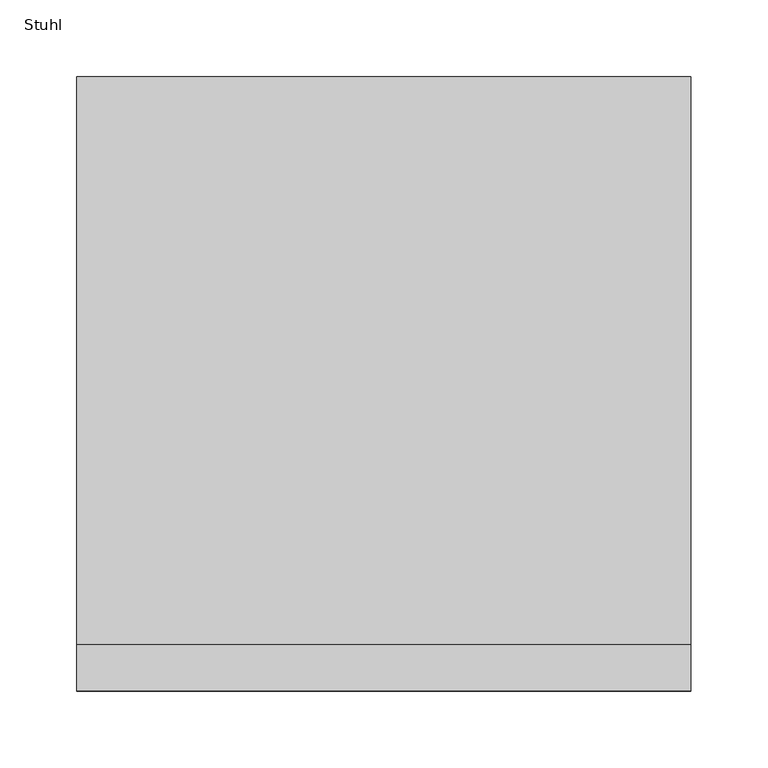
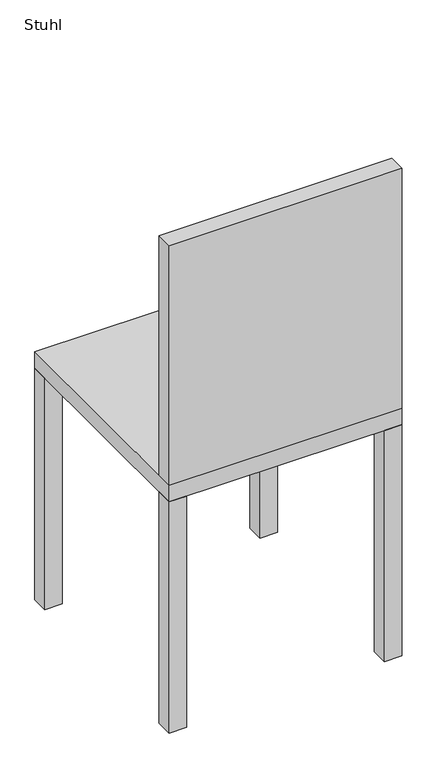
"""IFC4 building model written with IfcOpenShell, lengths in millimetres: furniture geometry, Mobile Ausstattung Stuhl : Stuhl."""

import ifcopenshell
import ifcopenshell.guid

model = None  # the IFC model being written
_history = None  # IfcOwnerHistory: only IFC2X3 demands one
_inside = {}  # id of a spatial element -> (the spatial element, [elements in it])
_under = {}  # id of a project, library or spatial element -> (it, [spatial elements below it])
_declared = {}  # id of a project -> (the project, [libraries it declares])
_typed = {}  # id of a type object -> (the type object, [elements of that type])
_made_of = {}  # id of a material, layer set ... -> (it, [elements and type objects made of it])


def new_model(schema):
    """Start an empty IFC model of exactly this schema.

    Asked for "IFC4X3", IfcOpenShell would pick the latest addendum, in which some entities
    have other attributes; the version numbers below select the first issue.
    IFC2X3 requires an IfcOwnerHistory on every rooted entity: one is made here for all.
    """
    global model, _history
    if schema == "IFC4X3":
        model = ifcopenshell.file(schema_version=(4, 3, 0, 0))
    else:
        model = ifcopenshell.file(schema=schema)
    _inside.clear()
    _under.clear()
    _declared.clear()
    _typed.clear()
    _made_of.clear()
    _history = None
    if model.schema == "IFC2X3":
        org = make("IfcOrganization", Name="unknown")
        user = make(
            "IfcPersonAndOrganization",
            ThePerson=make("IfcPerson", FamilyName="unknown"),
            TheOrganization=org,
        )
        app = make(
            "IfcApplication",
            ApplicationDeveloper=org,
            Version="unknown",
            ApplicationFullName="unknown",
            ApplicationIdentifier="unknown",
        )
        _history = make(
            "IfcOwnerHistory",
            OwningUser=user,
            OwningApplication=app,
            ChangeAction="ADDED",
            CreationDate=0,
        )
    return model


def make(cls, **values):
    """One entity of the class cls with the attributes given. An attribute that is None is left unset."""
    return model.create_entity(
        cls, **{name: value for name, value in values.items() if value is not None}
    )


def rooted(cls, **values):
    """An entity with a GlobalId (a new one), such as an element, a storey or a relation."""
    return make(cls, GlobalId=ifcopenshell.guid.new(), OwnerHistory=_history, **values)


def si_unit(unit_type, name, prefix=None):
    """IfcSIUnit, for example si_unit("LENGTHUNIT", "METRE", prefix="MILLI")."""
    return make("IfcSIUnit", UnitType=unit_type, Prefix=prefix, Name=name)


def assignment(units):
    """IfcUnitAssignment: the units of a project."""
    return None if units is None else make("IfcUnitAssignment", Units=units)


def point(xyz):
    """IfcCartesianPoint."""
    return None if xyz is None else make("IfcCartesianPoint", Coordinates=xyz)


def direction(xyz):
    """IfcDirection."""
    return None if xyz is None else make("IfcDirection", DirectionRatios=xyz)


def frame(location, z_axis=None, x_axis=None):
    """IfcAxis2Placement3D, a coordinate frame: its origin and axes. An axis left out is left unset."""
    return make(
        "IfcAxis2Placement3D",
        Location=point(location),
        Axis=direction(z_axis),
        RefDirection=direction(x_axis),
    )


def origin():
    """The frame at (0, 0, 0) with its axes left unset."""
    return frame((0.0, 0.0, 0.0))


def origin_with_axes():
    """The frame at (0, 0, 0) with the z axis (0, 0, 1) and the x axis (1, 0, 0) written out."""
    return frame((0.0, 0.0, 0.0), z_axis=(0.0, 0.0, 1.0), x_axis=(1.0, 0.0, 0.0))


def place(relative_to, where):
    """IfcLocalPlacement: puts the frame where relative to a parent placement (None: the world)."""
    return make(
        "IfcLocalPlacement", PlacementRelTo=relative_to, RelativePlacement=where
    )


def context(
    kind, dimensions, precision=None, world=None, true_north=None, identifier=None
):
    """IfcGeometricRepresentationContext, for example the 3D "Model" context."""
    return make(
        "IfcGeometricRepresentationContext",
        ContextIdentifier=identifier,
        ContextType=kind,
        CoordinateSpaceDimension=dimensions,
        Precision=precision,
        WorldCoordinateSystem=world,
        TrueNorth=true_north,
    )


def project(units=None, contexts=None):
    """IfcProject with its units and contexts."""
    return rooted(
        "IfcProject",
        Name="project",
        RepresentationContexts=contexts,
        UnitsInContext=assignment(units),
    )


def spatial(cls, under=None, at=None, **own):
    """A site, building, storey or space (cls), placed at a placement, below another one or the project."""
    s = rooted(cls, ObjectPlacement=at, **own)
    if under is not None:
        _under.setdefault(under.id(), (under, []))[1].append(s)
    return s


def polyline(points):
    """IfcPolyline through the points."""
    return make("IfcPolyline", Points=[point(p) for p in points])


def outline(outer, holes=None, kind="AREA"):
    """IfcArbitraryClosedProfileDef: a profile drawn as a closed curve; with holes, ...WithVoids."""
    if holes is None:
        return make("IfcArbitraryClosedProfileDef", ProfileType=kind, OuterCurve=outer)
    return make(
        "IfcArbitraryProfileDefWithVoids",
        ProfileType=kind,
        OuterCurve=outer,
        InnerCurves=holes,
    )


def extrude(swept, where, along, depth):
    """IfcExtrudedAreaSolid: the profile swept, set in the frame where, extruded along a direction by depth."""
    return make(
        "IfcExtrudedAreaSolid",
        SweptArea=swept,
        Position=where,
        ExtrudedDirection=direction(along),
        Depth=depth,
    )


def shape(context_of_items, identifier, shape_type, items):
    """IfcShapeRepresentation: the items that make up one representation, for example the "Body"."""
    return make(
        "IfcShapeRepresentation",
        ContextOfItems=context_of_items,
        RepresentationIdentifier=identifier,
        RepresentationType=shape_type,
        Items=items,
    )


def source(mapping_origin, context_of_items, identifier, shape_type, items):
    """IfcRepresentationMap: a shape defined once, which mapped items show again and again."""
    return make(
        "IfcRepresentationMap",
        MappingOrigin=mapping_origin,
        MappedRepresentation=shape(context_of_items, identifier, shape_type, items),
    )


def transform(
    local_origin,
    x_axis=None,
    y_axis=None,
    z_axis=None,
    scale=None,
    scale2=None,
    scale3=None,
    uniform=True,
):
    """IfcCartesianTransformationOperator3D, or its non-uniform kind. x_axis, y_axis, z_axis: its Axis1, 2, 3."""
    if uniform:
        return make(
            "IfcCartesianTransformationOperator3D",
            Axis1=direction(x_axis),
            Axis2=direction(y_axis),
            LocalOrigin=point(local_origin),
            Scale=scale,
            Axis3=direction(z_axis),
        )
    return make(
        "IfcCartesianTransformationOperator3DnonUniform",
        Axis1=direction(x_axis),
        Axis2=direction(y_axis),
        LocalOrigin=point(local_origin),
        Scale=scale,
        Axis3=direction(z_axis),
        Scale2=scale2,
        Scale3=scale3,
    )


def mapped(mapping_source, mapping_target):
    """IfcMappedItem: shows the shape of a source again, moved by a transform."""
    return make(
        "IfcMappedItem", MappingSource=mapping_source, MappingTarget=mapping_target
    )


def made_of(thing, what):
    """Note that an element or type object is made of a material, layer set ...; save() writes the relation."""
    if what is not None:
        _made_of.setdefault(what.id(), (what, []))[1].append(thing)
    return thing


def element(
    cls,
    number,
    at=None,
    inside=None,
    cuts=None,
    type_object=None,
    material=None,
    context=None,
    identifier="Body",
    shape_type=None,
    held_by="IfcProductDefinitionShape",
    body=None,
    shapes=None,
    **own,
):
    """One element of the class cls, such as IfcWall. Its Tag is "e" and its number.

    at: its placement. inside: the storey or other place that contains it. cuts: it is an
    opening in that element (IfcRelVoidsElement). A single representation is given by context,
    identifier, shape_type and body (its items); several are given by shapes. held_by: the class
    of the entity that holds the representations. save() writes the other relations.
    """
    e = rooted(cls, Tag="e%d" % number, ObjectPlacement=at, **own)
    if body is not None:
        shapes = [shape(context, identifier, shape_type, body)]
    if shapes is not None:
        e.Representation = make(held_by, Representations=shapes)
    if inside is not None:
        _inside.setdefault(inside.id(), (inside, []))[1].append(e)
    if cuts is not None:
        rooted(
            "IfcRelVoidsElement", RelatingBuildingElement=cuts, RelatedOpeningElement=e
        )
    if type_object is not None:
        _typed.setdefault(type_object.id(), (type_object, []))[1].append(e)
    return made_of(e, material)


def aggregate(whole, parts):
    """IfcRelAggregates: a whole, such as a stair, and the parts it consists of."""
    return rooted("IfcRelAggregates", RelatingObject=whole, RelatedObjects=parts)


def save(model, path):
    """Write the relations noted so far, then the file.

    IfcRelAggregates (storeys below a building ...), IfcRelContainedInSpatialStructure (elements
    in a storey), IfcRelDefinesByType, IfcRelAssociatesMaterial and IfcRelDeclares: one each for
    every whole, place, type object, material and project.
    """
    for whole, parts in _under.values():
        aggregate(whole, parts)
    for where, things in _inside.values():
        rooted(
            "IfcRelContainedInSpatialStructure",
            RelatedElements=things,
            RelatingStructure=where,
        )
    for kind, things in _typed.values():
        rooted("IfcRelDefinesByType", RelatedObjects=things, RelatingType=kind)
    for what, things in _made_of.values():
        rooted("IfcRelAssociatesMaterial", RelatedObjects=things, RelatingMaterial=what)
    for by, libraries in _declared.values():
        rooted("IfcRelDeclares", RelatingContext=by, RelatedDefinitions=libraries)
    model.write(path)


def stuhl_65f0d0b8(model_context):
    return source(origin(), model_context, "Body", "SweptSolid", [
        extrude(outline(polyline([(-200.0, -170.0), (-170.0, -170.0), (-170.0, -200.0), (-200.0, -200.0), (-200.0, -170.0)])), origin_with_axes(), (0.0, 0.0, 1.0), 420.0),
        extrude(outline(polyline([(200.0, -170.0), (200.0, -200.0), (170.0, -200.0), (170.0, -170.0), (200.0, -170.0)])), origin_with_axes(), (0.0, 0.0, 1.0), 420.0),
        extrude(outline(polyline([(200.0, 170.0), (170.0, 170.0), (170.0, 200.0), (200.0, 200.0), (200.0, 170.0)])), origin_with_axes(), (0.0, 0.0, 1.0), 420.0),
        extrude(outline(polyline([(-200.0, 170.0), (-200.0, 200.0), (-170.0, 200.0), (-170.0, 170.0), (-200.0, 170.0)])), origin_with_axes(), (0.0, 0.0, 1.0), 420.0),
        extrude(outline(polyline([(200.0, -200.0), (-200.0, -200.0), (-200.0, -170.0), (200.0, -170.0), (200.0, -200.0)])), frame((0.0, 0.0, 450.0), z_axis=(0.0, 0.0, 1.0), x_axis=(1.0, 0.0, 0.0)), (0.0, 0.0, 1.0), 435.4014448),
        extrude(outline(polyline([(200.0, -200.0), (-200.0, -200.0), (-200.0, 200.0), (200.0, 200.0), (200.0, -200.0)])), frame((0.0, 0.0, 420.0), z_axis=(0.0, 0.0, 1.0), x_axis=(1.0, 0.0, 0.0)), (0.0, 0.0, 1.0), 30.0),
    ])


if __name__ == "__main__":
    model = new_model("IFC4")
    model_context = context("Model", 3, world=origin())
    ifc_project = project(units=[si_unit("LENGTHUNIT", "METRE", prefix="MILLI")], contexts=[model_context])
    site = spatial("IfcSite", under=ifc_project)
    building = spatial("IfcBuilding", under=site)
    placement = place(None, origin())
    stuhl_shape = stuhl_65f0d0b8(model_context)
    element("IfcFurniture", 1, ObjectType="Mobile Ausstattung Stuhl : Stuhl", at=placement, inside=building, context=model_context, shape_type="MappedRepresentation", body=[
        mapped(stuhl_shape, transform((0.0, 0.0, 0.0), x_axis=(1.0, 0.0, 0.0), y_axis=(0.0, 1.0, 0.0), z_axis=(0.0, 0.0, 1.0))),
    ])
    save(model, "model.ifc")
